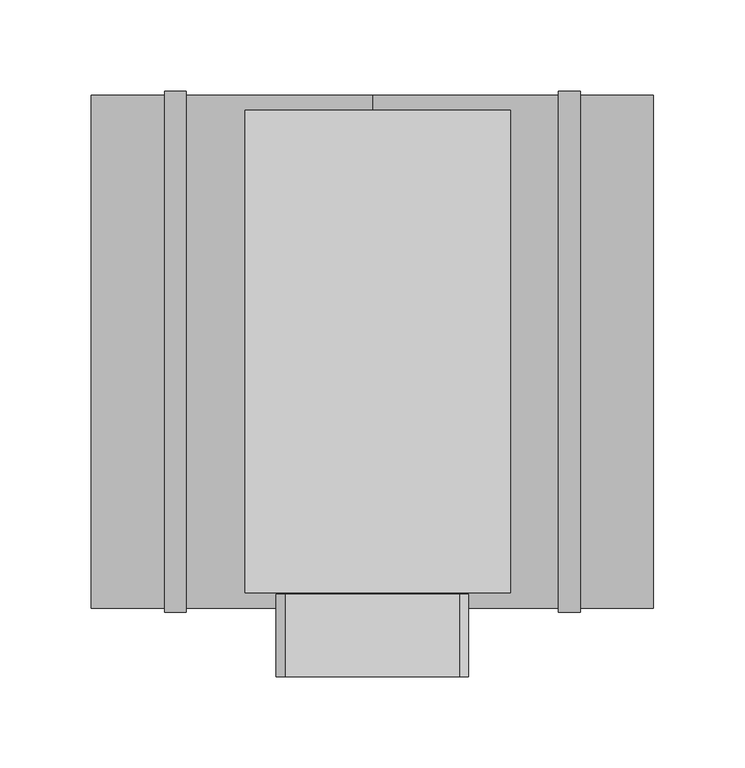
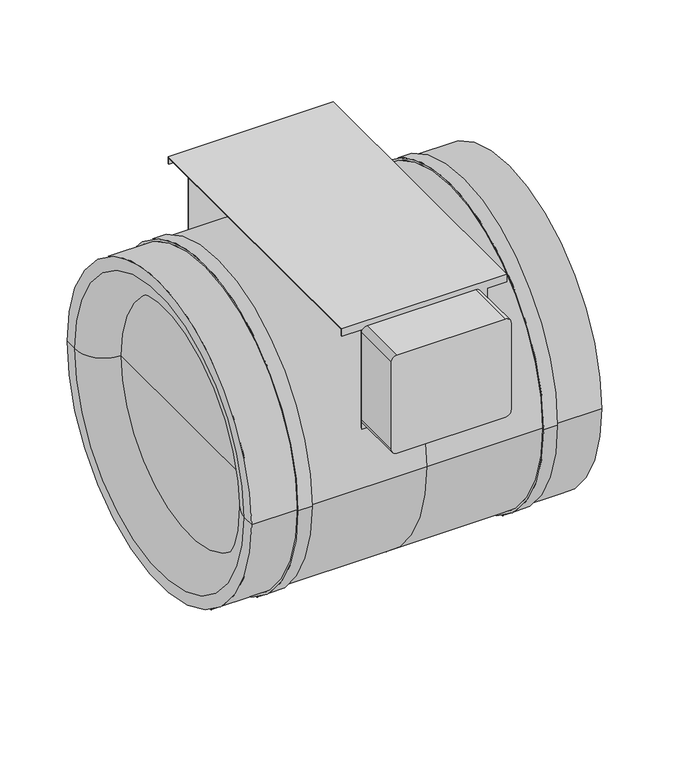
"""IFC4 building model written with IfcOpenShell, lengths in millimetres: unitary equipment geometry, VE-Wentylator-ParaForma-Harmann-JETTEC-Nawiewny : 280/2300S."""

import ifcopenshell
import ifcopenshell.guid

model = None  # the IFC model being written
_history = None  # IfcOwnerHistory: only IFC2X3 demands one
_inside = {}  # id of a spatial element -> (the spatial element, [elements in it])
_under = {}  # id of a project, library or spatial element -> (it, [spatial elements below it])
_declared = {}  # id of a project -> (the project, [libraries it declares])
_typed = {}  # id of a type object -> (the type object, [elements of that type])
_made_of = {}  # id of a material, layer set ... -> (it, [elements and type objects made of it])


def new_model(schema):
    """Start an empty IFC model of exactly this schema.

    Asked for "IFC4X3", IfcOpenShell would pick the latest addendum, in which some entities
    have other attributes; the version numbers below select the first issue.
    IFC2X3 requires an IfcOwnerHistory on every rooted entity: one is made here for all.
    """
    global model, _history
    if schema == "IFC4X3":
        model = ifcopenshell.file(schema_version=(4, 3, 0, 0))
    else:
        model = ifcopenshell.file(schema=schema)
    _inside.clear()
    _under.clear()
    _declared.clear()
    _typed.clear()
    _made_of.clear()
    _history = None
    if model.schema == "IFC2X3":
        org = make("IfcOrganization", Name="unknown")
        user = make(
            "IfcPersonAndOrganization",
            ThePerson=make("IfcPerson", FamilyName="unknown"),
            TheOrganization=org,
        )
        app = make(
            "IfcApplication",
            ApplicationDeveloper=org,
            Version="unknown",
            ApplicationFullName="unknown",
            ApplicationIdentifier="unknown",
        )
        _history = make(
            "IfcOwnerHistory",
            OwningUser=user,
            OwningApplication=app,
            ChangeAction="ADDED",
            CreationDate=0,
        )
    return model


def make(cls, **values):
    """One entity of the class cls with the attributes given. An attribute that is None is left unset."""
    return model.create_entity(
        cls, **{name: value for name, value in values.items() if value is not None}
    )


def rooted(cls, **values):
    """An entity with a GlobalId (a new one), such as an element, a storey or a relation."""
    return make(cls, GlobalId=ifcopenshell.guid.new(), OwnerHistory=_history, **values)


def si_unit(unit_type, name, prefix=None):
    """IfcSIUnit, for example si_unit("LENGTHUNIT", "METRE", prefix="MILLI")."""
    return make("IfcSIUnit", UnitType=unit_type, Prefix=prefix, Name=name)


def assignment(units):
    """IfcUnitAssignment: the units of a project."""
    return None if units is None else make("IfcUnitAssignment", Units=units)


def point(xyz):
    """IfcCartesianPoint."""
    return None if xyz is None else make("IfcCartesianPoint", Coordinates=xyz)


def direction(xyz):
    """IfcDirection."""
    return None if xyz is None else make("IfcDirection", DirectionRatios=xyz)


def frame(location, z_axis=None, x_axis=None):
    """IfcAxis2Placement3D, a coordinate frame: its origin and axes. An axis left out is left unset."""
    return make(
        "IfcAxis2Placement3D",
        Location=point(location),
        Axis=direction(z_axis),
        RefDirection=direction(x_axis),
    )


def frame_2d(location, x_axis=None):
    """IfcAxis2Placement2D, a coordinate frame in the plane: its origin and x axis."""
    return make(
        "IfcAxis2Placement2D", Location=point(location), RefDirection=direction(x_axis)
    )


def origin():
    """The frame at (0, 0, 0) with its axes left unset."""
    return frame((0.0, 0.0, 0.0))


def place(relative_to, where):
    """IfcLocalPlacement: puts the frame where relative to a parent placement (None: the world)."""
    return make(
        "IfcLocalPlacement", PlacementRelTo=relative_to, RelativePlacement=where
    )


def context(
    kind, dimensions, precision=None, world=None, true_north=None, identifier=None
):
    """IfcGeometricRepresentationContext, for example the 3D "Model" context."""
    return make(
        "IfcGeometricRepresentationContext",
        ContextIdentifier=identifier,
        ContextType=kind,
        CoordinateSpaceDimension=dimensions,
        Precision=precision,
        WorldCoordinateSystem=world,
        TrueNorth=true_north,
    )


def project(units=None, contexts=None):
    """IfcProject with its units and contexts."""
    return rooted(
        "IfcProject",
        Name="project",
        RepresentationContexts=contexts,
        UnitsInContext=assignment(units),
    )


def spatial(cls, under=None, at=None, **own):
    """A site, building, storey or space (cls), placed at a placement, below another one or the project."""
    s = rooted(cls, ObjectPlacement=at, **own)
    if under is not None:
        _under.setdefault(under.id(), (under, []))[1].append(s)
    return s


def polyline(points):
    """IfcPolyline through the points."""
    return make("IfcPolyline", Points=[point(p) for p in points])


def circle_curve(where, radius):
    """IfcCircle in the frame where."""
    return make("IfcCircle", Position=where, Radius=radius)


def ellipse_curve(where, semi_axis1, semi_axis2):
    """IfcEllipse in the frame where."""
    return make(
        "IfcEllipse", Position=where, SemiAxis1=semi_axis1, SemiAxis2=semi_axis2
    )


def trimmed(basis, trim1, trim2, sense, master):
    """IfcTrimmedCurve: the piece of a basis curve between two trims."""
    return make(
        "IfcTrimmedCurve",
        BasisCurve=basis,
        Trim1=trim1,
        Trim2=trim2,
        SenseAgreement=sense,
        MasterRepresentation=master,
    )


def segment(curve, same_sense, transition):
    """IfcCompositeCurveSegment."""
    return make(
        "IfcCompositeCurveSegment",
        Transition=transition,
        SameSense=same_sense,
        ParentCurve=curve,
    )


def composite_curve(segments, self_intersect=None):
    """IfcCompositeCurve: segments joined end to end."""
    return make("IfcCompositeCurve", Segments=segments, SelfIntersect=self_intersect)


def outline(outer, holes=None, kind="AREA"):
    """IfcArbitraryClosedProfileDef: a profile drawn as a closed curve; with holes, ...WithVoids."""
    if holes is None:
        return make("IfcArbitraryClosedProfileDef", ProfileType=kind, OuterCurve=outer)
    return make(
        "IfcArbitraryProfileDefWithVoids",
        ProfileType=kind,
        OuterCurve=outer,
        InnerCurves=holes,
    )


def extrude(swept, where, along, depth):
    """IfcExtrudedAreaSolid: the profile swept, set in the frame where, extruded along a direction by depth."""
    return make(
        "IfcExtrudedAreaSolid",
        SweptArea=swept,
        Position=where,
        ExtrudedDirection=direction(along),
        Depth=depth,
    )


def shape(context_of_items, identifier, shape_type, items):
    """IfcShapeRepresentation: the items that make up one representation, for example the "Body"."""
    return make(
        "IfcShapeRepresentation",
        ContextOfItems=context_of_items,
        RepresentationIdentifier=identifier,
        RepresentationType=shape_type,
        Items=items,
    )


def source(mapping_origin, context_of_items, identifier, shape_type, items):
    """IfcRepresentationMap: a shape defined once, which mapped items show again and again."""
    return make(
        "IfcRepresentationMap",
        MappingOrigin=mapping_origin,
        MappedRepresentation=shape(context_of_items, identifier, shape_type, items),
    )


def transform(
    local_origin,
    x_axis=None,
    y_axis=None,
    z_axis=None,
    scale=None,
    scale2=None,
    scale3=None,
    uniform=True,
):
    """IfcCartesianTransformationOperator3D, or its non-uniform kind. x_axis, y_axis, z_axis: its Axis1, 2, 3."""
    if uniform:
        return make(
            "IfcCartesianTransformationOperator3D",
            Axis1=direction(x_axis),
            Axis2=direction(y_axis),
            LocalOrigin=point(local_origin),
            Scale=scale,
            Axis3=direction(z_axis),
        )
    return make(
        "IfcCartesianTransformationOperator3DnonUniform",
        Axis1=direction(x_axis),
        Axis2=direction(y_axis),
        LocalOrigin=point(local_origin),
        Scale=scale,
        Axis3=direction(z_axis),
        Scale2=scale2,
        Scale3=scale3,
    )


def mapped(mapping_source, mapping_target):
    """IfcMappedItem: shows the shape of a source again, moved by a transform."""
    return make(
        "IfcMappedItem", MappingSource=mapping_source, MappingTarget=mapping_target
    )


def made_of(thing, what):
    """Note that an element or type object is made of a material, layer set ...; save() writes the relation."""
    if what is not None:
        _made_of.setdefault(what.id(), (what, []))[1].append(thing)
    return thing


def element(
    cls,
    number,
    at=None,
    inside=None,
    cuts=None,
    type_object=None,
    material=None,
    context=None,
    identifier="Body",
    shape_type=None,
    held_by="IfcProductDefinitionShape",
    body=None,
    shapes=None,
    **own,
):
    """One element of the class cls, such as IfcWall. Its Tag is "e" and its number.

    at: its placement. inside: the storey or other place that contains it. cuts: it is an
    opening in that element (IfcRelVoidsElement). A single representation is given by context,
    identifier, shape_type and body (its items); several are given by shapes. held_by: the class
    of the entity that holds the representations. save() writes the other relations.
    """
    e = rooted(cls, Tag="e%d" % number, ObjectPlacement=at, **own)
    if body is not None:
        shapes = [shape(context, identifier, shape_type, body)]
    if shapes is not None:
        e.Representation = make(held_by, Representations=shapes)
    if inside is not None:
        _inside.setdefault(inside.id(), (inside, []))[1].append(e)
    if cuts is not None:
        rooted(
            "IfcRelVoidsElement", RelatingBuildingElement=cuts, RelatedOpeningElement=e
        )
    if type_object is not None:
        _typed.setdefault(type_object.id(), (type_object, []))[1].append(e)
    return made_of(e, material)


def aggregate(whole, parts):
    """IfcRelAggregates: a whole, such as a stair, and the parts it consists of."""
    return rooted("IfcRelAggregates", RelatingObject=whole, RelatedObjects=parts)


def save(model, path):
    """Write the relations noted so far, then the file.

    IfcRelAggregates (storeys below a building ...), IfcRelContainedInSpatialStructure (elements
    in a storey), IfcRelDefinesByType, IfcRelAssociatesMaterial and IfcRelDeclares: one each for
    every whole, place, type object, material and project.
    """
    for whole, parts in _under.values():
        aggregate(whole, parts)
    for where, things in _inside.values():
        rooted(
            "IfcRelContainedInSpatialStructure",
            RelatedElements=things,
            RelatingStructure=where,
        )
    for kind, things in _typed.values():
        rooted("IfcRelDefinesByType", RelatedObjects=things, RelatingType=kind)
    for what, things in _made_of.values():
        rooted("IfcRelAssociatesMaterial", RelatedObjects=things, RelatingMaterial=what)
    for by, libraries in _declared.values():
        rooted("IfcRelDeclares", RelatingContext=by, RelatedDefinitions=libraries)
    model.write(path)


def plane_surface(at):
    """IfcPlane: the flat surface through the origin of the frame at, square to its z axis."""
    return make("IfcPlane", Position=at)


def cylinder_surface(at, radius):
    """IfcCylindricalSurface: all points at the distance radius from the z axis of the frame at."""
    return make("IfcCylindricalSurface", Position=at, Radius=radius)


def revolved_surface(curve, axis_point, axis_direction):
    """IfcSurfaceOfRevolution: the curve turned about the line through axis_point along axis_direction."""
    return make(
        "IfcSurfaceOfRevolution",
        SweptCurve=make("IfcArbitraryOpenProfileDef", ProfileType="CURVE", Curve=curve),
        AxisPosition=make("IfcAxis1Placement", Location=point(axis_point), Axis=direction(axis_direction)),
    )


def advanced_brep(points, edges, surfaces, faces):
    """IfcAdvancedBrep: a solid bounded by faces that lie on surfaces and meet in shared edges.

    An edge is (start, end): straight between two places in points (the first is 0);
    or (start, end, curve); or (start, end, curve, False) where it runs against its curve.
    A face is (place in surfaces, loops), or (place, loops, False) where it looks against
    its surface's normal. A loop lists edges by number (the first is 1), with a minus sign
    where the edge is run from its end to its start. The first loop is the outer one.
    """
    corners = [point(p) for p in points]
    vertices = [make("IfcVertexPoint", VertexGeometry=c) for c in corners]
    made = []
    for start, end, *more in edges:
        made.append(
            make(
                "IfcEdgeCurve",
                EdgeStart=vertices[start],
                EdgeEnd=vertices[end],
                EdgeGeometry=more[0] if more else make("IfcPolyline", Points=[corners[start], corners[end]]),
                SameSense=more[1] if len(more) > 1 else True,
            )
        )
    hull = []
    for where, loops, *sense in faces:
        bounds = []
        for j, loop in enumerate(loops):
            ring = [make("IfcOrientedEdge", EdgeElement=made[abs(k) - 1], Orientation=k > 0) for k in loop]
            bounds.append(
                make(
                    "IfcFaceOuterBound" if j == 0 else "IfcFaceBound",
                    Bound=make("IfcEdgeLoop", EdgeList=ring),
                    Orientation=True,
                )
            )
        hull.append(make("IfcAdvancedFace", Bounds=bounds, FaceSurface=surfaces[where], SameSense=sense[0] if sense else True))
    return make("IfcAdvancedBrep", Outer=make("IfcClosedShell", CfsFaces=hull))


def unitary_equipment_73fab27a(model_context):
    return source(origin(), model_context, "Body", "SolidModel", [
        extrude(outline(composite_curve([segment(polyline([(52.0, -47.7), (52.0, 47.7)]), True, "CONTINUOUS"), segment(trimmed(circle_curve(frame_2d((57.0, 47.7)), 5.0), [point((52.0, 47.7))], [point((57.0, 52.7))], False, "CARTESIAN"), True, "CONTINUOUS"), segment(polyline([(57.0, 52.7), (138.0, 52.7)]), True, "CONTINUOUS"), segment(trimmed(circle_curve(frame_2d((138.0, 47.7)), 5.0), [point((138.0, 52.7))], [point((143.0, 47.7))], False, "CARTESIAN"), True, "CONTINUOUS"), segment(polyline([(143.0, 47.7), (143.0, -47.7)]), True, "CONTINUOUS"), segment(trimmed(circle_curve(frame_2d((138.0, -47.7)), 5.0), [point((143.0, -47.7))], [point((138.0, -52.7))], False, "CARTESIAN"), True, "CONTINUOUS"), segment(polyline([(138.0, -52.7), (57.0, -52.7)]), True, "CONTINUOUS"), segment(trimmed(circle_curve(frame_2d((57.0, -47.7)), 5.0), [point((57.0, -52.7))], [point((52.0, -47.7))], False, "CARTESIAN"), True, "CONTINUOUS")], self_intersect=False)), frame((0.0, -177.7, 0.0), z_axis=(0.0, 1.0, 0.0), x_axis=(0.0, 0.0, 1.0)), (0.0, 0.0, 1.0), 45.0),
        advanced_brep(
        [(75.5, 132.0, 140.4), (75.5, 132.0, 147.2), (75.5, -132.0, 147.2), (75.5, -132.0, 140.4), (75.5, -131.2, 140.4), (75.5, -131.2, 146.4), (75.5, 131.2, 146.4), (75.5, 131.2, 140.4), (58.0, 131.2, 140.4), (58.0, 132.0, 140.4), (-69.5, 131.2, 146.4), (-69.5, 131.2, 140.4), (-52.0, 131.2, 140.4), (-52.0, 131.2, 49.8465897), (58.0, 131.2, 49.8465897), (-69.5, -131.2, 146.4), (58.0, -131.2, 140.4), (58.0, -131.2, 49.8465897), (-52.0, -131.2, 49.8465897), (-52.0, -131.2, 140.4), (-69.5, -131.2, 140.4), (58.0, -132.0, 140.4), (-69.5, -132.0, 147.2), (-69.5, -132.0, 140.4), (-52.0, -132.0, 140.4), (-52.0, -132.0, 47.6877605), (58.0, -132.0, 47.6877605), (-69.5, 132.0, 147.2), (58.0, 132.0, 47.6877605), (-52.0, 132.0, 47.6877605), (-52.0, 132.0, 140.4), (-69.5, 132.0, 140.4)],
        [
            (0, 1),
            (1, 2),
            (2, 3),
            (3, 4),
            (4, 5),
            (5, 6),
            (6, 7),
            (7, 0),
            (7, 8),
            (8, 9),
            (9, 0),
            (6, 10),
            (10, 11),
            (11, 12),
            (12, 13),
            (13, 14),
            (14, 8),
            (5, 15),
            (15, 10),
            (4, 16),
            (16, 17),
            (17, 18),
            (18, 19),
            (19, 20),
            (20, 15),
            (3, 21),
            (21, 16),
            (2, 22),
            (22, 23),
            (23, 24),
            (24, 25),
            (25, 26),
            (26, 21),
            (1, 27),
            (27, 22),
            (9, 28),
            (28, 29),
            (29, 30),
            (30, 31),
            (31, 27),
            (29, 13, circle_curve(frame((-52.0, 0.0, 0.0), z_axis=(1.0, 0.0, 0.0), x_axis=(0.0, 1.0, 0.0)), 140.35)),
            (12, 30),
            (18, 25, circle_curve(frame((-52.0, 0.0, 0.0), z_axis=(1.0, 0.0, 0.0), x_axis=(0.0, 1.0, 0.0)), 140.35)),
            (24, 19),
            (14, 28, circle_curve(frame((58.0, 0.0, 0.0), z_axis=(-1.0, 0.0, 0.0), x_axis=(0.0, 1.0, 0.0)), 140.35)),
            (26, 17, circle_curve(frame((58.0, 0.0, 0.0), z_axis=(-1.0, 0.0, 0.0), x_axis=(0.0, 1.0, 0.0)), 140.35)),
            (31, 11),
            (20, 23),
        ],
        [
            plane_surface(frame((75.5, 0.0, 0.0), z_axis=(1.0, 0.0, 0.0), x_axis=(0.0, 0.0, 1.0))),
            plane_surface(frame((58.0, 132.0, 140.4), z_axis=(0.0, 0.0, -1.0), x_axis=(1.0, 0.0, 0.0))),
            plane_surface(frame((58.0, 131.2, 140.4), z_axis=(0.0, -1.0, 0.0), x_axis=(1.0, 0.0, 0.0))),
            plane_surface(frame((58.0, -122.5382235, 146.4), z_axis=(0.0, 0.0, -1.0), x_axis=(1.0, 0.0, 0.0))),
            plane_surface(frame((58.0, -131.2, 146.4), z_axis=(0.0, 1.0, 0.0), x_axis=(1.0, 0.0, 0.0))),
            plane_surface(frame((58.0, -131.2, 140.4), z_axis=(0.0, 0.0, -1.0), x_axis=(1.0, 0.0, 0.0))),
            plane_surface(frame((58.0, -132.0, 140.4), z_axis=(0.0, -1.0, 0.0), x_axis=(1.0, 0.0, 0.0))),
            plane_surface(frame((58.0, 122.0, 147.2), z_axis=(0.0, 0.0, 1.0), x_axis=(1.0, 0.0, 0.0))),
            plane_surface(frame((58.0, 132.0, 147.2), z_axis=(0.0, 1.0, 0.0), x_axis=(1.0, 0.0, 0.0))),
            plane_surface(frame((-52.0, 0.0, 0.0), z_axis=(-1.0, 0.0, 0.0), x_axis=(0.0, 0.0, 1.0))),
            plane_surface(frame((58.0, 0.0, 0.0), z_axis=(1.0, 0.0, 0.0), x_axis=(0.0, 0.0, 1.0))),
            revolved_surface(polyline([(-52.0, 140.35, 0.0), (58.0, 140.35, 0.0)]), (-52.0, 0.0, 0.0), (-1.0, 0.0, 0.0)),
            plane_surface(frame((-69.5, 0.0, 0.0), z_axis=(-1.0, 0.0, 0.0), x_axis=(0.0, 0.0, 1.0))),
            plane_surface(frame((-69.5, 132.0, 140.4), z_axis=(0.0, 0.0, -1.0), x_axis=(1.0, 0.0, 0.0))),
            plane_surface(frame((-69.5, -131.2, 140.4), z_axis=(0.0, 0.0, -1.0), x_axis=(1.0, 0.0, 0.0))),
        ],
        [
            (0, [[1, 2, 3, 4, 5, 6, 7, 8]]),
            (1, [[-8, 9, 10, 11]]),
            (2, [[-7, 12, 13, 14, 15, 16, 17, -9]]),
            (3, [[-12, -6, 18, 19]]),
            (4, [[-18, -5, 20, 21, 22, 23, 24, 25]]),
            (5, [[-4, 26, 27, -20]]),
            (6, [[-3, 28, 29, 30, 31, 32, 33, -26]]),
            (7, [[-28, -2, 34, 35]]),
            (8, [[-34, -1, -11, 36, 37, 38, 39, 40]]),
            (9, [[41, -15, 42, -38]]),
            (9, [[43, -31, 44, -23]]),
            (10, [[45, -36, -10, -17]]),
            (10, [[46, -21, -27, -33]]),
            (11, [[-41, -37, -45, -16]]),
            (11, [[-43, -22, -46, -32]]),
            (12, [[47, -13, -19, -25, 48, -29, -35, -40]]),
            (13, [[-47, -39, -42, -14]]),
            (14, [[-48, -24, -44, -30]]),
        ],
    ),
        advanced_brep(
        [(-101.8, 140.4, 0.0), (0.0, 140.4, 0.0), (0.0, -140.4, 0.0), (-101.8, -140.4, 0.0), (-153.8, -140.4, 0.0), (-153.8, 140.4, 0.0), (-113.8, 140.4, 0.0), (-113.8, -140.4, 0.0), (-153.8, -129.5, 0.0), (-153.8, 129.5, 0.0), (-127.8, -103.5, 0.0), (-127.8, 103.5, 0.0), (-127.8, 0.0, 0.0), (153.8, -140.4, 0.0), (153.8, 140.4, 0.0), (153.8, 0.0, 0.0), (113.8, -140.4, 0.0), (113.8, 140.4, 0.0), (101.8, 140.4, 0.0), (101.8, -140.4, 0.0), (-101.8, -142.4, 0.0), (-101.8, 142.4, 0.0), (-113.8, -142.4, 0.0), (-113.8, 142.4, 0.0), (113.8, -142.4, 0.0), (113.8, 142.4, 0.0), (101.8, -142.4, 0.0), (101.8, 142.4, 0.0)],
        [
            (0, 1),
            (1, 2, circle_curve(frame((0.0, 0.0, 0.0), z_axis=(-1.0, 0.0, 0.0), x_axis=(0.0, 1.0, 0.0)), 140.4)),
            (2, 3),
            (3, 0, circle_curve(frame((-101.8, 0.0, 0.0), z_axis=(1.0, 0.0, 0.0), x_axis=(0.0, 1.0, 0.0)), 140.4)),
            (0, 3, circle_curve(frame((-101.8, 0.0, 0.0), z_axis=(1.0, 0.0, 0.0), x_axis=(0.0, 1.0, 0.0)), 140.4)),
            (2, 1, circle_curve(frame((0.0, 0.0, 0.0), z_axis=(-1.0, 0.0, 0.0), x_axis=(0.0, 1.0, 0.0)), 140.4)),
            (4, 5, circle_curve(frame((-153.8, 0.0, 0.0), z_axis=(1.0, 0.0, 0.0), x_axis=(0.0, 1.0, 0.0)), 140.4)),
            (5, 6),
            (6, 7, circle_curve(frame((-113.8, 0.0, 0.0), z_axis=(-1.0, 0.0, 0.0), x_axis=(0.0, 1.0, 0.0)), 140.4)),
            (7, 4),
            (5, 4, circle_curve(frame((-153.8, 0.0, 0.0), z_axis=(1.0, 0.0, 0.0), x_axis=(0.0, 1.0, 0.0)), 140.4)),
            (7, 6, circle_curve(frame((-113.8, 0.0, 0.0), z_axis=(-1.0, 0.0, 0.0), x_axis=(0.0, 1.0, 0.0)), 140.4)),
            (4, 8),
            (8, 9, circle_curve(frame((-153.8, 0.0, 0.0), z_axis=(1.0, 0.0, 0.0), x_axis=(0.0, 1.0, 0.0)), 129.5)),
            (9, 5),
            (9, 8, circle_curve(frame((-153.8, 0.0, 0.0), z_axis=(1.0, 0.0, 0.0), x_axis=(0.0, 1.0, 0.0)), 129.5)),
            (8, 10, circle_curve(frame((-127.8, -129.5, 0.0), z_axis=(0.0, 0.0, -1.0), x_axis=(1.0, 0.0, 0.0)), 26.0)),
            (10, 11, circle_curve(frame((-127.8, 0.0, 0.0), z_axis=(1.0, 0.0, 0.0), x_axis=(0.0, 1.0, 0.0)), 103.5)),
            (11, 9, circle_curve(frame((-127.8, 129.5, 0.0), z_axis=(0.0, 0.0, -1.0), x_axis=(1.0, 0.0, 0.0)), 26.0)),
            (11, 10, circle_curve(frame((-127.8, 0.0, 0.0), z_axis=(1.0, 0.0, 0.0), x_axis=(0.0, 1.0, 0.0)), 103.5)),
            (10, 12),
            (12, 11),
            (13, 14, circle_curve(frame((153.8, 0.0, 0.0), z_axis=(1.0, 0.0, 0.0), x_axis=(0.0, 1.0, 0.0)), 140.4)),
            (14, 15),
            (15, 13),
            (14, 13, circle_curve(frame((153.8, 0.0, 0.0), z_axis=(1.0, 0.0, 0.0), x_axis=(0.0, 1.0, 0.0)), 140.4)),
            (13, 16),
            (16, 17, circle_curve(frame((113.8, 0.0, 0.0), z_axis=(1.0, 0.0, 0.0), x_axis=(0.0, 1.0, 0.0)), 140.4)),
            (17, 14),
            (17, 16, circle_curve(frame((113.8, 0.0, 0.0), z_axis=(1.0, 0.0, 0.0), x_axis=(0.0, 1.0, 0.0)), 140.4)),
            (1, 18),
            (18, 19, circle_curve(frame((101.8, 0.0, 0.0), z_axis=(-1.0, 0.0, 0.0), x_axis=(0.0, 1.0, 0.0)), 140.4)),
            (19, 2),
            (19, 18, circle_curve(frame((101.8, 0.0, 0.0), z_axis=(-1.0, 0.0, 0.0), x_axis=(0.0, 1.0, 0.0)), 140.4)),
            (20, 21, circle_curve(frame((-101.8, 0.0, 0.0), z_axis=(1.0, 0.0, 0.0), x_axis=(0.0, 1.0, 0.0)), 142.4)),
            (21, 0),
            (3, 20),
            (21, 20, circle_curve(frame((-101.8, 0.0, 0.0), z_axis=(1.0, 0.0, 0.0), x_axis=(0.0, 1.0, 0.0)), 142.4)),
            (20, 22),
            (22, 23, circle_curve(frame((-113.8, 0.0, 0.0), z_axis=(1.0, 0.0, 0.0), x_axis=(0.0, 1.0, 0.0)), 142.4)),
            (23, 21),
            (23, 22, circle_curve(frame((-113.8, 0.0, 0.0), z_axis=(1.0, 0.0, 0.0), x_axis=(0.0, 1.0, 0.0)), 142.4)),
            (22, 7),
            (6, 23),
            (24, 25, circle_curve(frame((113.8, 0.0, 0.0), z_axis=(1.0, 0.0, 0.0), x_axis=(0.0, 1.0, 0.0)), 142.4)),
            (25, 17),
            (16, 24),
            (25, 24, circle_curve(frame((113.8, 0.0, 0.0), z_axis=(1.0, 0.0, 0.0), x_axis=(0.0, 1.0, 0.0)), 142.4)),
            (24, 26),
            (26, 27, circle_curve(frame((101.8, 0.0, 0.0), z_axis=(1.0, 0.0, 0.0), x_axis=(0.0, 1.0, 0.0)), 142.4)),
            (27, 25),
            (27, 26, circle_curve(frame((101.8, 0.0, 0.0), z_axis=(1.0, 0.0, 0.0), x_axis=(0.0, 1.0, 0.0)), 142.4)),
            (26, 19),
            (18, 27),
        ],
        [
            cylinder_surface(frame((-127.8, 0.0, 0.0), z_axis=(-1.0, 0.0, 0.0), x_axis=(0.0, 1.0, 0.0)), 140.4),
            plane_surface(frame((-153.8, 0.0, 0.0), z_axis=(-1.0, 0.0, 0.0), x_axis=(0.0, 1.0, 0.0))),
            revolved_surface(trimmed(ellipse_curve(frame((-127.8, 129.5, 0.0), z_axis=(0.0, 0.0, 1.0), x_axis=(1.0, 0.0, 0.0)), 26.0, 26.0), [point((-153.8, 129.5, 0.0))], [point((-127.8, 103.5, 0.0))], True, "CARTESIAN"), (-127.8, 0.0, 0.0), (-1.0, 0.0, 0.0)),
            plane_surface(frame((-127.8, 0.0, 0.0), z_axis=(-1.0, 0.0, 0.0), x_axis=(0.0, 1.0, 0.0))),
            plane_surface(frame((153.8, 0.0, 0.0), z_axis=(1.0, 0.0, 0.0), x_axis=(0.0, 1.0, 0.0))),
            cylinder_surface(frame((0.0, 0.0, 0.0), z_axis=(-1.0, 0.0, 0.0), x_axis=(0.0, 1.0, 0.0)), 140.4),
            plane_surface(frame((-101.8, 0.0, 0.0), z_axis=(1.0, 0.0, 0.0), x_axis=(0.0, 1.0, 0.0))),
            cylinder_surface(frame((-113.8, 0.0, 0.0), z_axis=(-1.0, 0.0, 0.0), x_axis=(0.0, 1.0, 0.0)), 142.4),
            plane_surface(frame((-113.8, 0.0, 0.0), z_axis=(-1.0, 0.0, 0.0), x_axis=(0.0, 1.0, 0.0))),
            plane_surface(frame((113.8, 0.0, 0.0), z_axis=(1.0, 0.0, 0.0), x_axis=(0.0, 1.0, 0.0))),
            plane_surface(frame((101.8, 0.0, 0.0), z_axis=(-1.0, 0.0, 0.0), x_axis=(0.0, 1.0, 0.0))),
        ],
        [
            (0, [[1, 2, 3, 4]]),
            (0, [[-1, 5, -3, 6]]),
            (0, [[7, 8, 9, 10]]),
            (0, [[-8, 11, -10, 12]]),
            (1, [[-7, 13, 14, 15]]),
            (1, [[-11, -15, 16, -13]]),
            (2, [[-14, 17, 18, 19]]),
            (2, [[-16, -19, 20, -17]]),
            (3, [[-18, 21, 22]]),
            (3, [[-20, -22, -21]]),
            (4, [[23, 24, 25]]),
            (4, [[-24, 26, -25]]),
            (5, [[-23, 27, 28, 29]]),
            (5, [[-26, -29, 30, -27]]),
            (5, [[31, 32, 33, -2]]),
            (5, [[-31, -6, -33, 34]]),
            (6, [[35, 36, -4, 37]]),
            (6, [[38, -37, -5, -36]]),
            (7, [[-35, 39, 40, 41]]),
            (7, [[-38, -41, 42, -39]]),
            (8, [[-40, 43, -9, 44]]),
            (8, [[-42, -44, -12, -43]]),
            (9, [[45, 46, -28, 47]]),
            (9, [[48, -47, -30, -46]]),
            (7, [[-45, 49, 50, 51]]),
            (7, [[-48, -51, 52, -49]]),
            (10, [[-50, 53, -32, 54]]),
            (10, [[-52, -54, -34, -53]]),
        ],
    ),
    ])


if __name__ == "__main__":
    model = new_model("IFC4")
    model_context = context("Model", 3, world=origin())
    ifc_project = project(units=[si_unit("LENGTHUNIT", "METRE", prefix="MILLI")], contexts=[model_context])
    site = spatial("IfcSite", under=ifc_project)
    building = spatial("IfcBuilding", under=site)
    placement = place(None, origin())
    unitary_equipment_shape = unitary_equipment_73fab27a(model_context)
    element("IfcUnitaryEquipment", 1, ObjectType="VE-Wentylator-ParaForma-Harmann-JETTEC-Nawiewny : 280/2300S", at=placement, inside=building, context=model_context, shape_type="MappedRepresentation", body=[
        mapped(unitary_equipment_shape, transform((0.0, 0.0, 0.0), x_axis=(1.0, 0.0, 0.0), y_axis=(0.0, 1.0, 0.0), z_axis=(0.0, 0.0, 1.0))),
    ])
    save(model, "model.ifc")
